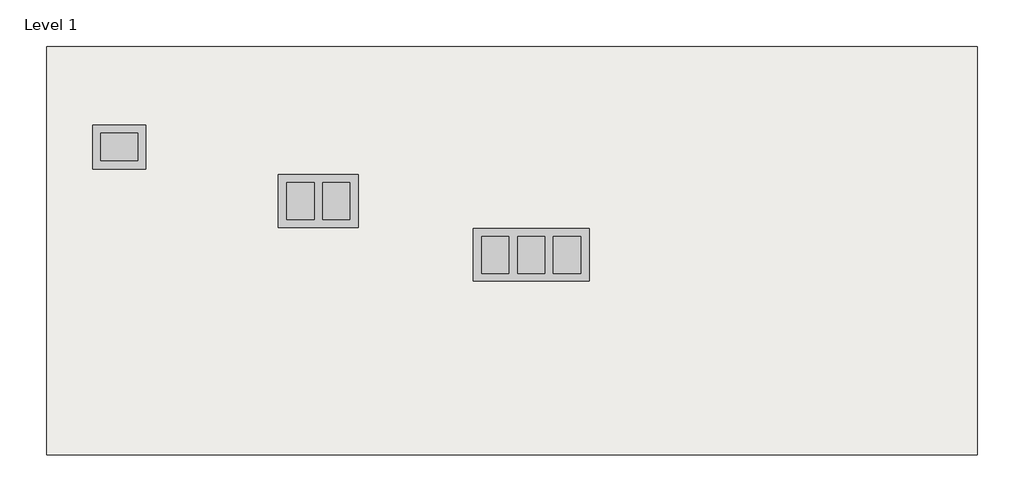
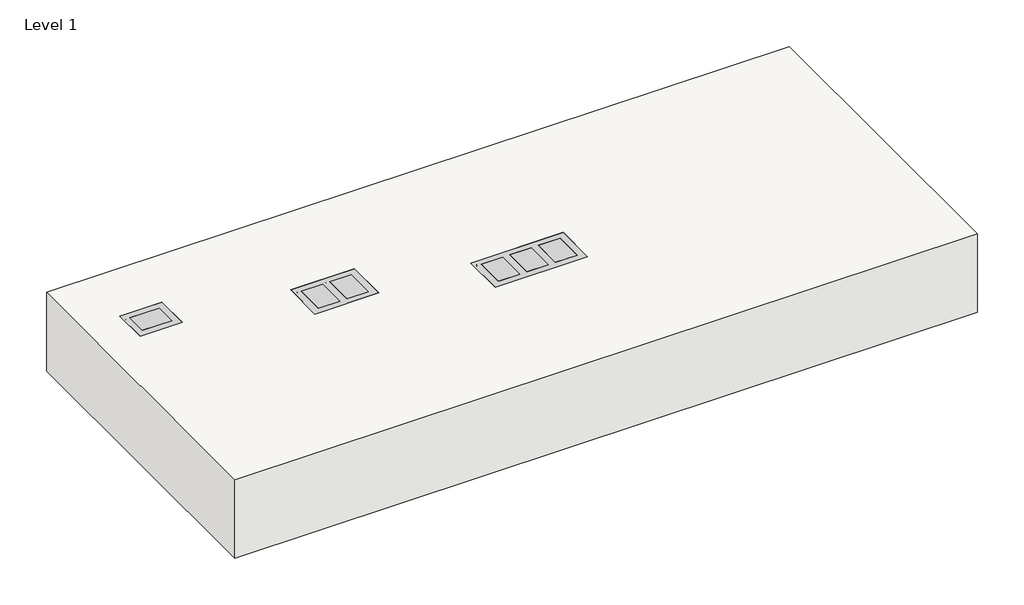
# One storey: 3 proxies, 1 slab.
"""IFC4 building model written with IfcOpenShell, lengths in millimetres."""

from ifc_helpers import new_model, si_unit, origin, place, context, project, spatial, faceted_brep, transform, mapped, element, save
from components import standard_ebe740a5, standard_1601c0b5, standard_40654299

model = new_model("IFC4")

# Units and contexts
model_context = context("Model", 3, world=origin())
ifc_project = project(units=[si_unit("LENGTHUNIT", "METRE", prefix="MILLI")], contexts=[model_context])

# Site, building, storey
site = spatial("IfcSite", under=ifc_project)
building = spatial("IfcBuilding", under=site)
storey = spatial("IfcBuildingStorey", under=building, Name="Level 1", Elevation=0.0)

# Proxies
placement = place(None, origin())
standard_shape = standard_ebe740a5(model_context)
element("IfcBuildingElementProxy", 1, Name="Floor_Box-Modulink-Wiremold-880_Nonmetallic-3_Gang : Standard", ObjectType="Floor_Box-Modulink-Wiremold-880_Nonmetallic-3_Gang : Standard", at=placement, inside=storey, context=model_context, shape_type="MappedRepresentation", body=[
    mapped(standard_shape, transform((3247.8475991, 770.2928318, 0.0), x_axis=(0.0, 1.0000000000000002, 0.0), y_axis=(-1.0000000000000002, 0.0, 0.0), z_axis=(0.0, 0.0, 1.0))),
])
standard_2_shape = standard_1601c0b5(model_context)
element("IfcBuildingElementProxy", 2, Name="Floor_Box-Modulink-Wiremold-880_Nonmetallic-1_Gang : Standard", ObjectType="Floor_Box-Modulink-Wiremold-880_Nonmetallic-1_Gang : Standard", at=placement, inside=storey, context=model_context, shape_type="MappedRepresentation", body=[
    mapped(standard_2_shape, transform((2045.8159038, 1085.5054029, 0.0), x_axis=(1.0, 0.0, 0.0), y_axis=(0.0, 1.0, 0.0), z_axis=(0.0, 0.0, 1.0))),
])
standard_3_shape = standard_40654299(model_context)
element("IfcBuildingElementProxy", 3, Name="Floor_Box-Modulink-Wiremold-880_Nonmetallic-2_Gang : Standard", ObjectType="Floor_Box-Modulink-Wiremold-880_Nonmetallic-2_Gang : Standard", at=placement, inside=storey, context=model_context, shape_type="MappedRepresentation", body=[
    mapped(standard_3_shape, transform((2626.9259848, 927.232516, 0.0), x_axis=(0.0, 1.0000000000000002, 0.0), y_axis=(-1.0000000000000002, 0.0, 0.0), z_axis=(0.0, 0.0, 1.0))),
])

# Slab
element("IfcSlab", 4, ObjectType="Generic - 12\"", at=placement, inside=storey, context=model_context, shape_type="Brep", body=[
    faceted_brep([(4550.9973575, 1378.9766815, -304.8), (4550.9973575, 185.1766815, -304.8), (1833.1973575, 185.1766815, -304.8), (1833.1973575, 1378.9766815, -304.8), (4550.9973575, 185.1766815, 0.0), (4550.9973575, 1378.9766815, 0.0), (1833.1973575, 1378.9766815, 0.0), (1833.1973575, 185.1766815, 0.0), (1968.8158038, 1149.8055029, 0.0), (2122.8160038, 1149.8055029, 0.0), (2122.8160038, 1021.2053029, 0.0), (1968.8158038, 1021.2053029, 0.0), (2743.6135848, 850.232416, 0.0), (2510.2383848, 850.232416, 0.0), (2510.2383848, 1004.232616, 0.0), (2743.6135848, 1004.232616, 0.0), (3416.9226991, 847.2929318, 0.0), (3416.9226991, 693.2927318, 0.0), (3078.7724991, 693.2927318, 0.0), (3078.7724991, 847.2929318, 0.0), (1968.8158038, 1149.8055029, -3.175), (2122.8160038, 1149.8055029, -3.175), (1991.8409038, 1125.1929029, -12.7), (1991.8409038, 1045.8179029, -12.7), (2099.7909038, 1045.8179029, -12.7), (2099.7909038, 1125.1929029, -12.7), (1991.8409038, 1125.1929029, -3.175), (1991.8409038, 1045.8179029, -3.175), (2099.7909038, 1045.8179029, -3.175), (2099.7909038, 1125.1929029, -3.175), (2122.8160038, 1021.2053029, -3.175), (1968.8158038, 1021.2053029, -3.175), (2534.8382848, 873.257516, -12.7), (2614.2132848, 873.257516, -12.7), (2614.2132848, 981.207516, -12.7), (2534.8382848, 981.207516, -12.7), (2534.8382848, 873.257516, -3.175), (2614.2132848, 873.257516, -3.175), (2614.2132848, 981.207516, -3.175), (2534.8382848, 981.207516, -3.175), (2510.2383848, 850.232416, -3.175), (2743.6135848, 850.232416, -3.175), (2743.6135848, 1004.232616, -3.175), (2510.2383848, 1004.232616, -3.175), (3416.9226991, 847.2929318, -3.175), (3416.9226991, 693.2927318, -3.175), (3078.7724991, 847.2929318, -3.175), (3078.7724991, 693.2927318, -3.175)], [[[0, 1, 2, 3]], [[4, 5, 6, 7], [8, 9, 10, 11], [12, 13, 14, 15], [16, 17, 18, 19]], [[1, 0, 5, 4]], [[2, 1, 4, 7]], [[3, 2, 7, 6]], [[0, 3, 6, 5]], [[20, 21, 9, 8]], [[22, 23, 24, 25]], [[23, 22, 26, 27]], [[24, 23, 27, 28]], [[25, 24, 28, 29]], [[22, 25, 29, 26]], [[30, 21, 20, 31], [27, 26, 29, 28]], [[20, 8, 11, 31]], [[10, 30, 31, 11]], [[21, 30, 10, 9]], [[32, 33, 34, 35]], [[33, 32, 36, 37]], [[34, 33, 37, 38]], [[35, 34, 38, 39]], [[32, 35, 39, 36]], [[40, 41, 42, 43], [37, 36, 39, 38]], [[41, 40, 13, 12]], [[42, 41, 12, 15]], [[43, 42, 15, 14]], [[40, 43, 14, 13]], [[44, 45, 17, 16]], [[46, 44, 16, 19]], [[47, 45, 44, 46]], [[45, 47, 18, 17]], [[47, 46, 19, 18]]]),
])

save(model, "model.ifc")
